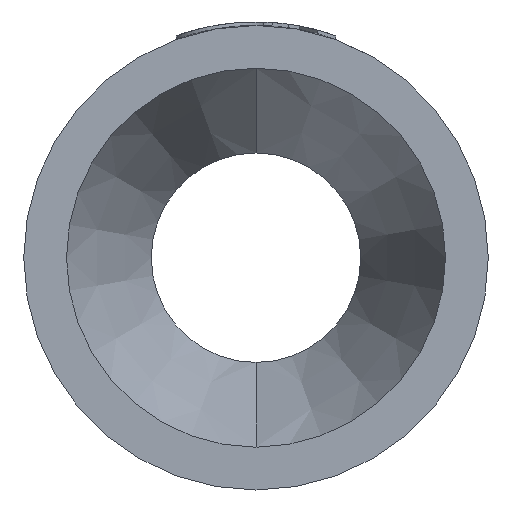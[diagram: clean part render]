
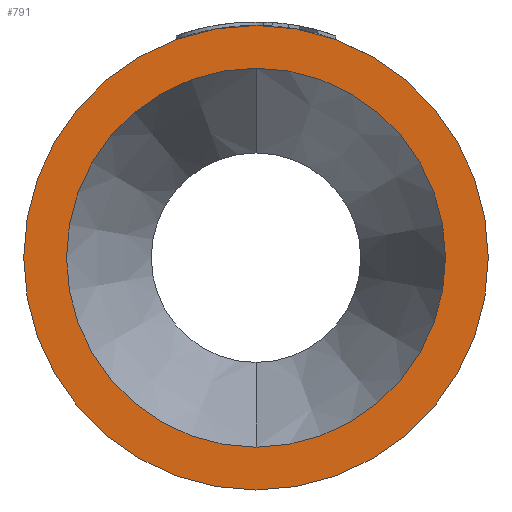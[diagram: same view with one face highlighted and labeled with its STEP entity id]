
A CAD part, left-side view. The second image highlights one B-rep face of the part: STEP entity #791.
In plain terms, the highlighted planar face has unit normal (-1, 0, 0).
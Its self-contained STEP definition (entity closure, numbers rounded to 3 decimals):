
#62 = EDGE_CURVE ( 'NONE', #720, #675, #2958, .T. ) ;
#67 = DIRECTION ( 'NONE',  ( 0., 0., 1. ) ) ;
#96 = VERTEX_POINT ( 'NONE', #3098 ) ;
#149 = CARTESIAN_POINT ( 'NONE',  ( 0., 0., -31.5 ) ) ;
#216 = CARTESIAN_POINT ( 'NONE',  ( 0., 0., -25.7 ) ) ;
#285 = EDGE_CURVE ( 'NONE', #2153, #96, #1548, .T. ) ;
#675 = VERTEX_POINT ( 'NONE', #1251 ) ;
#720 = VERTEX_POINT ( 'NONE', #149 ) ;
#791 = ADVANCED_FACE ( 'NONE', ( #1981, #1192 ), #1972, .F. ) ;
#1014 = ORIENTED_EDGE ( 'NONE', *, *, #3317, .T. ) ;
#1131 = EDGE_LOOP ( 'NONE', ( #1287, #2491 ) ) ;
#1192 = FACE_OUTER_BOUND ( 'NONE', #1650, .T. ) ;
#1225 = CARTESIAN_POINT ( 'NONE',  ( 0., 0., 0. ) ) ;
#1251 = CARTESIAN_POINT ( 'NONE',  ( 0., 0., 31.5 ) ) ;
#1287 = ORIENTED_EDGE ( 'NONE', *, *, #3042, .F. ) ;
#1338 = AXIS2_PLACEMENT_3D ( 'NONE', #1871, #1948, #67 ) ;
#1548 = CIRCLE ( 'NONE', #1691, 25.7 ) ;
#1650 = EDGE_LOOP ( 'NONE', ( #1014, #2507 ) ) ;
#1691 = AXIS2_PLACEMENT_3D ( 'NONE', #1225, #2102, #3302 ) ;
#1839 = DIRECTION ( 'NONE',  ( 0., 0., -1. ) ) ;
#1855 = DIRECTION ( 'NONE',  ( 1., 0., 0. ) ) ;
#1863 = CARTESIAN_POINT ( 'NONE',  ( 0., 25.7, 0. ) ) ;
#1871 = CARTESIAN_POINT ( 'NONE',  ( 0., 0., 0. ) ) ;
#1948 = DIRECTION ( 'NONE',  ( -1., 0., 0. ) ) ;
#1972 = PLANE ( 'NONE',  #2774 ) ;
#1981 = FACE_BOUND ( 'NONE', #1131, .T. ) ;
#2102 = DIRECTION ( 'NONE',  ( -1., 0., 0. ) ) ;
#2105 = CIRCLE ( 'NONE', #2982, 25.7 ) ;
#2117 = DIRECTION ( 'NONE',  ( 0., 0., 1. ) ) ;
#2120 = DIRECTION ( 'NONE',  ( -1., 0., 0. ) ) ;
#2121 = CARTESIAN_POINT ( 'NONE',  ( 0., 0., 0. ) ) ;
#2153 = VERTEX_POINT ( 'NONE', #216 ) ;
#2451 = DIRECTION ( 'NONE',  ( 0., 0., 1. ) ) ;
#2454 = DIRECTION ( 'NONE',  ( -1., 0., 0. ) ) ;
#2455 = CARTESIAN_POINT ( 'NONE',  ( 0., 0., 0. ) ) ;
#2491 = ORIENTED_EDGE ( 'NONE', *, *, #285, .F. ) ;
#2507 = ORIENTED_EDGE ( 'NONE', *, *, #62, .T. ) ;
#2718 = AXIS2_PLACEMENT_3D ( 'NONE', #2121, #2120, #2117 ) ;
#2727 = CIRCLE ( 'NONE', #2718, 31.5 ) ;
#2774 = AXIS2_PLACEMENT_3D ( 'NONE', #1863, #1855, #1839 ) ;
#2958 = CIRCLE ( 'NONE', #1338, 31.5 ) ;
#2982 = AXIS2_PLACEMENT_3D ( 'NONE', #2455, #2454, #2451 ) ;
#3042 = EDGE_CURVE ( 'NONE', #96, #2153, #2105, .T. ) ;
#3098 = CARTESIAN_POINT ( 'NONE',  ( 0., 0., 25.7 ) ) ;
#3302 = DIRECTION ( 'NONE',  ( 0., 0., 1. ) ) ;
#3317 = EDGE_CURVE ( 'NONE', #675, #720, #2727, .T. ) ;
